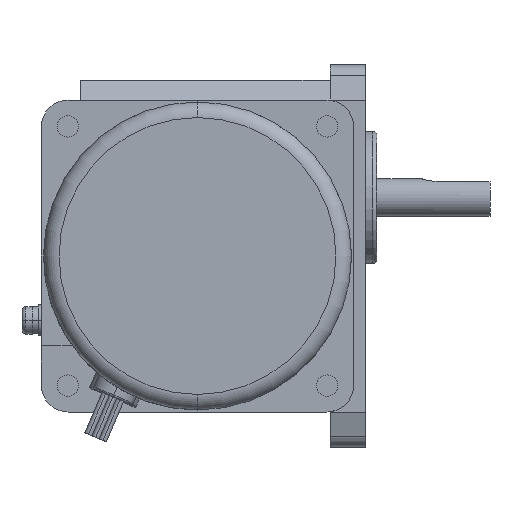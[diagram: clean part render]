
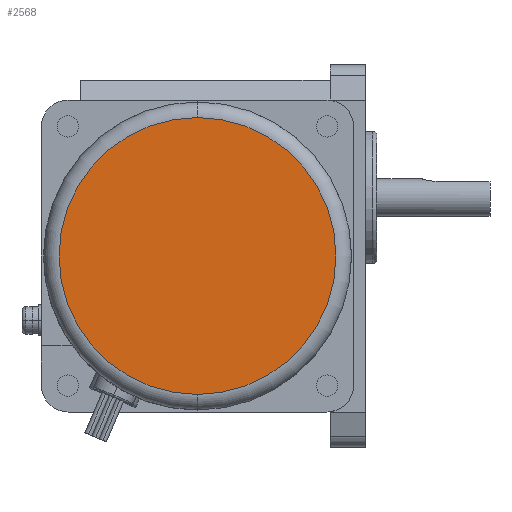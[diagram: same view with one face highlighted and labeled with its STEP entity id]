
A CAD part, left-side view. The second image highlights one B-rep face of the part: STEP entity #2568.
In plain terms, the highlighted planar face has unit normal (-1, 0, 0).
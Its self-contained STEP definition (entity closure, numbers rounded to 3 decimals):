
#2548=CARTESIAN_POINT('POINT667320',(-191.,43.,20.5));
#2549=VERTEX_POINT('VERTEX667320',#2548);
#2550=CARTESIAN_POINT('POINT667321',(-191.,43.,-50.5));
#2551=VERTEX_POINT('VERTEX667321',#2550);
#2552=CARTESIAN_POINT('POS1099705',(-191.,43.,-15.));
#2553=DIRECTION('DIR1647410',(-1.,0.,0.));
#2554=DIRECTION('DIR1647411',(0.,0.,-1.));
#2555=AXIS2_PLACEMENT_3D('AXIS547706',#2552,#2553,#2554);
#2556=CIRCLE('ELLIPSE247552',#2555,35.5);
#2557=EDGE_CURVE('EDGE1025368',#2549,#2551,#2556,.T.);
#2558=ORIENTED_EDGE('COEDGE2051435',*,*,#2557,.T.);
#2559=EDGE_CURVE('EDGE1025369',#2551,#2549,#2556,.T.);
#2560=ORIENTED_EDGE('COEDGE2051436',*,*,#2559,.T.);
#2561=EDGE_LOOP('NONE',(#2558,#2560));
#2562=FACE_BOUND('LOOP1',#2561,.T.);
#2563=CARTESIAN_POINT('POS1099706',(-191.,43.,-34.745));
#2564=DIRECTION('DIR1647412',(-1.,0.,0.));
#2565=DIRECTION('DIR1647413',(0.,1.,0.));
#2566=AXIS2_PLACEMENT_3D('AXIS547707',#2563,#2564,#2565);
#2567=PLANE('PLANE188982',#2566);
#2568=ADVANCED_FACE('FACE418791',(#2562),#2567,.T.);
